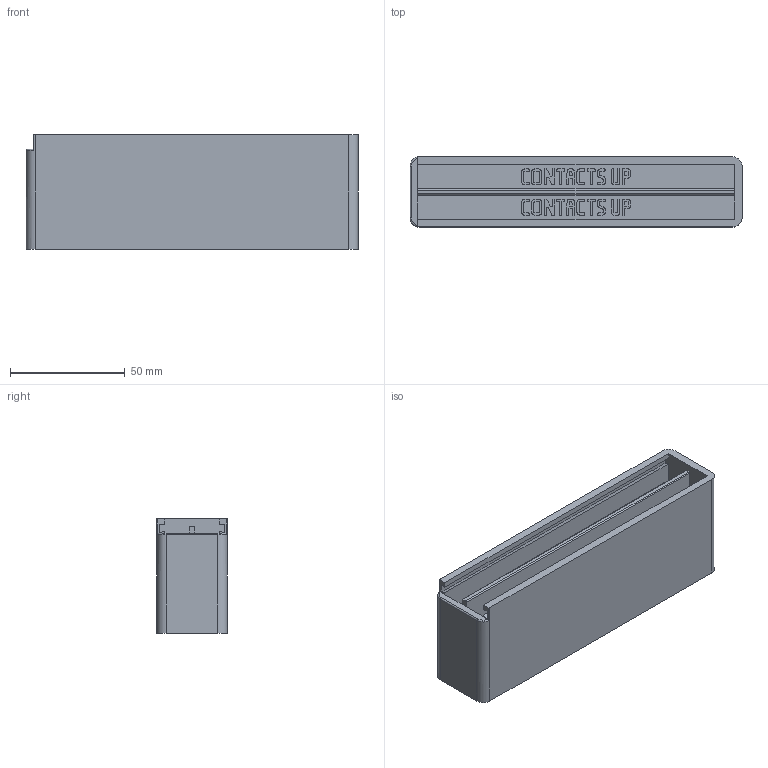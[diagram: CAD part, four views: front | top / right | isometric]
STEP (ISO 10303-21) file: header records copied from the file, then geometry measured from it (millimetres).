
FILE_DESCRIPTION(('Open CASCADE Model'),'2;1');
FILE_NAME('Open CASCADE Shape Model','2026-11-03T17:05:45',('Author'),( 'Open CASCADE'),'Open CASCADE STEP processor 8.0','build123d', 'Unknown');
FILE_SCHEMA(('AUTOMOTIVE_DESIGN { 1 0 10303 214 1 1 1 1 }'));
Products named in the file (1): COMPOUND
Bounding box: 144.8 x 30.6 x 49.9 mm (x, y, z)
Volume: 77963.2 mm3; surface area: 54728 mm2
Topology: 1 solids, 1 shells, 1975 faces, 5835 edges, 3888 vertices
Faces by surface type: plane 1966, cylinder 7, torus 2
Entity records: 140429 total; most frequent: CARTESIAN_POINT 23538, DIRECTION 21428, LINE 17436, VECTOR 17436, ORIENTED_EDGE 11670, PCURVE 11670, DEFINITIONAL_REPRESENTATION 11670, EDGE_CURVE 5835
